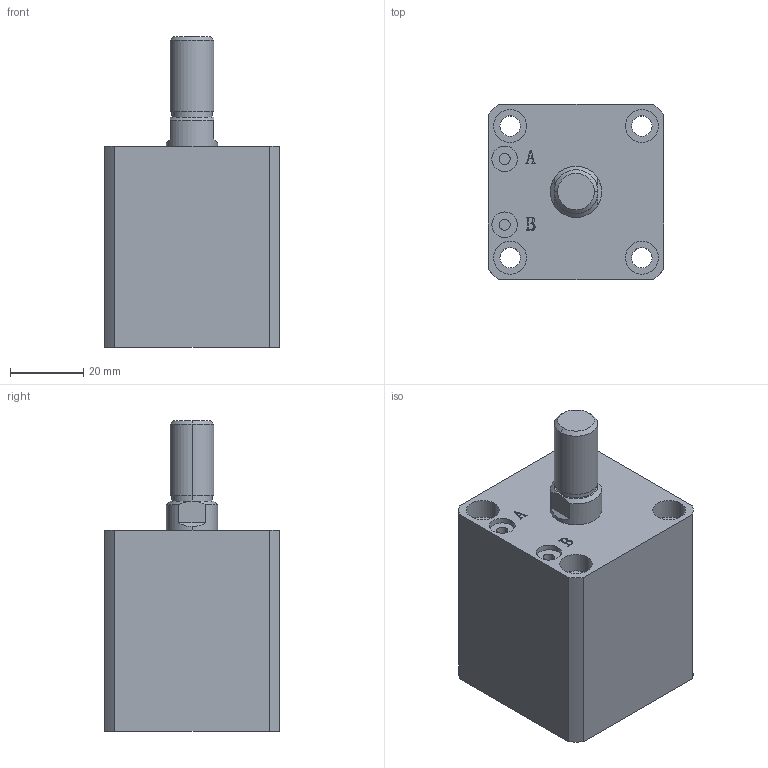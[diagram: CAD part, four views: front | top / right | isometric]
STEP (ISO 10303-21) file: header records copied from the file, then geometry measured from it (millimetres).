
FILE_DESCRIPTION (( 'STEP AP203' ), '1' );
FILE_NAME ('HTB-SDMA25-10W.STEP', '2019-10-07T10:50:45', ( '微软用户' ), ( '微软中国' ), 'SwSTEP 2.0', 'SolidWorks 2012', '' );
FILE_SCHEMA (( 'CONFIG_CONTROL_DESIGN' ));
Length unit declared in the file: millimetre
Products named in the file (3): HTB-SDMA25-10W; HTB-SDMA25-10W活塞杆; HTB-SDMA25-10掛极
Assembly tree (2 placements, depth 2):
  HTB-SDMA25-10W
    HTB-SDMA25-10掛极
    HTB-SDMA25-10W活塞杆
Bounding box: 48 x 48 x 85 mm (x, y, z)
Volume: 118678 mm3; surface area: 27537.2 mm2
Topology: 2 solids, 2 shells, 141 faces, 335 edges, 220 vertices
Faces by surface type: plane 67, cylinder 48, bspline 16, torus 6, cone 4
Entity records: 5178 total; most frequent: CARTESIAN_POINT 1609, ORIENTED_EDGE 670, DIRECTION 667, EDGE_CURVE 335, AXIS2_PLACEMENT_3D 242, VERTEX_POINT 220, LINE 183, VECTOR 183
